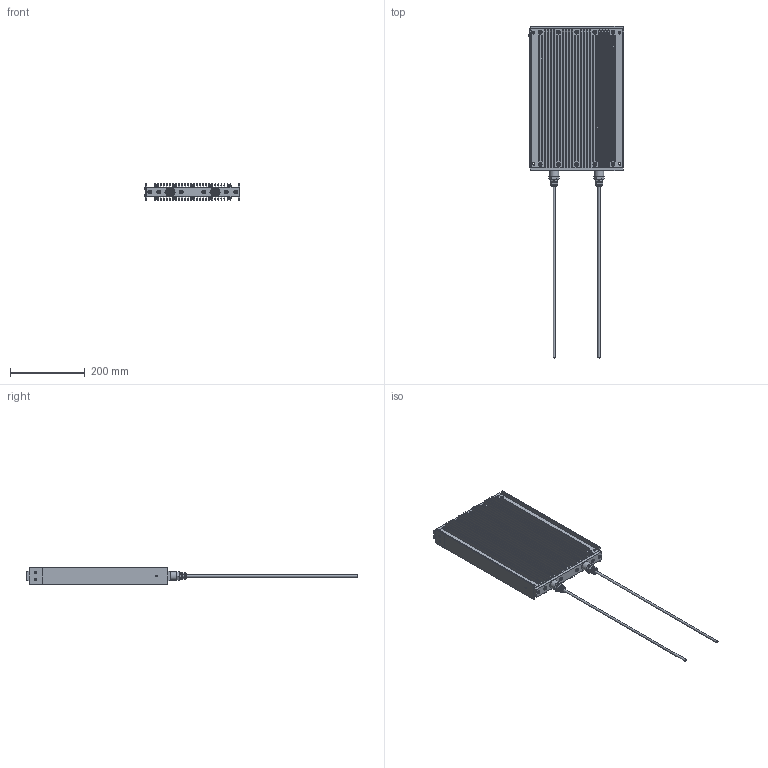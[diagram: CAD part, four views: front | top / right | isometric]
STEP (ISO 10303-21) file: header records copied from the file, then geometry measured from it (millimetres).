
FILE_DESCRIPTION(/* description */ (''),/* implementation_level */ '2;1');
FILE_NAME(/* name */ 'C:\_Vault\Dati\CATALOGO\RFH\RFH 2PG\RFH 2000 2PG 3d.stp',/* time_stamp */ '2014-03-25T19:14:05+01:00',/* author */ ('stefano'),/* organization */ (''),/* preprocessor_version */ 'ST-DEVELOPER v15.2',/* originating_system */ 'Autodesk Inventor 2014',/* authorisation */ '');
FILE_SCHEMA (('AUTOMOTIVE_DESIGN { 1 0 10303 214 3 1 1 }'));
Length unit declared in the file: millimetre
Products named in the file (1): RFH 2000 2PG 3d
Bounding box: 254.37 x 886.2 x 45 mm (x, y, z)
Volume: 1817520.1 mm3; surface area: 841573.1 mm2
Topology: 3 solids, 11 shells, 1539 faces, 3801 edges, 2479 vertices
Faces by surface type: plane 731, cylinder 491, cone 251, torus 60, sphere 6
Full cylindrical faces by diameter (mm): 2.5 x2, 2.9 x2, 3 x2, 4.134 x8, 4.567 x4, 4.917 x1, 5 x36, 5.3 x32, 5.5 x30, 5.6 x12, 6 x2, 7 x4, 8.5 x10, 9 x2, 10 x36, 10.5 x12, 12 x2, 13 x4, 13.376 x2, 15 x2, 17 x4, 24 x2
Entity records: 46287 total; most frequent: CARTESIAN_POINT 10684, DIRECTION 7056, ORIENTED_EDGE 6736, EDGE_CURVE 3368, AXIS2_PLACEMENT_3D 2844, VERTEX_POINT 2356, EDGE_LOOP 2122, STYLED_ITEM 1542
